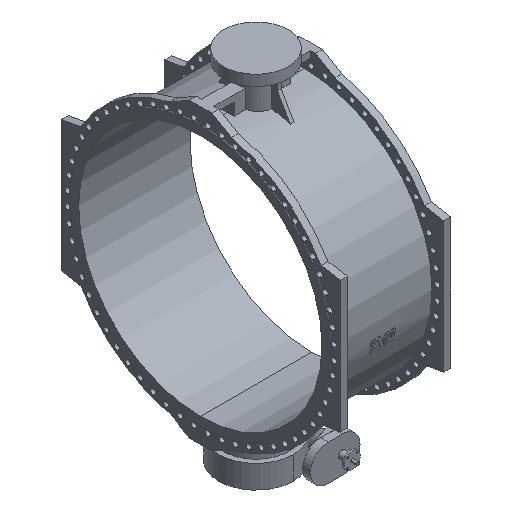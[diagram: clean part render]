
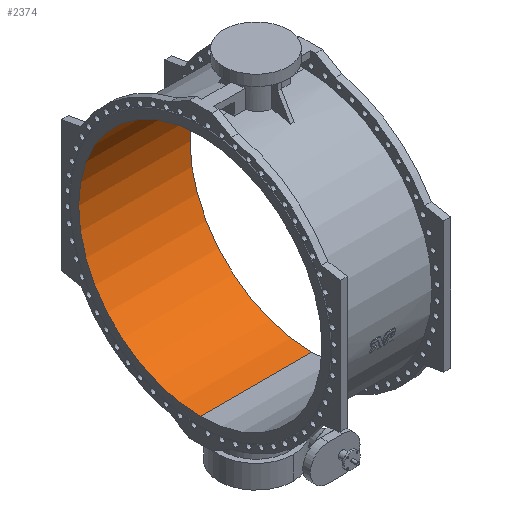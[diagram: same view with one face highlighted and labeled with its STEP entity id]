
A CAD part, isometric view. The second image highlights one B-rep face of the part: STEP entity #2374.
In plain terms, the highlighted cylindrical face has radius 1300 mm (diameter 2600 mm), a partial arc.
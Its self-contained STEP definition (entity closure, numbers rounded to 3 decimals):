
#725 = VERTEX_POINT ( 'NONE', #3560 ) ;
#747 = DIRECTION ( 'NONE',  ( 0., 0., -1. ) ) ;
#776 = AXIS2_PLACEMENT_3D ( 'NONE', #17924, #14817, #747 ) ;
#1259 = ORIENTED_EDGE ( 'NONE', *, *, #9246, .F. ) ;
#1321 = DIRECTION ( 'NONE',  ( 1., 0., 0. ) ) ;
#1470 = CIRCLE ( 'NONE', #776, 1300. ) ;
#1897 = EDGE_CURVE ( 'Defeatured_0_143+Defeatured_0_75+Defeatured_0_75+Defeatured_0_75', #12732, #4132, #1470, .T. ) ;
#2374 = ADVANCED_FACE ( 'Defeatured_0_143', ( #9691 ), #9369, .F. ) ;
#3560 = CARTESIAN_POINT ( 'NONE',  ( 595., 0., 1300. ) ) ;
#3817 = DIRECTION ( 'NONE',  ( 1., 0., 0. ) ) ;
#4132 = VERTEX_POINT ( 'NONE', #13626 ) ;
#4303 = DIRECTION ( 'NONE',  ( 1., 0., 0. ) ) ;
#4768 = CARTESIAN_POINT ( 'NONE',  ( -4356.808, 0., 0. ) ) ;
#5332 = CARTESIAN_POINT ( 'NONE',  ( 595., 0., 0. ) ) ;
#5952 = AXIS2_PLACEMENT_3D ( 'NONE', #4768, #1321, #17411 ) ;
#5962 = EDGE_CURVE ( 'NONE', #4132, #12372, #13946, .T. ) ;
#6005 = VECTOR ( 'NONE', #4303, 1000. ) ;
#8189 = CARTESIAN_POINT ( 'NONE',  ( 595., 0., -1300. ) ) ;
#9246 = EDGE_CURVE ( 'NONE', #12732, #725, #9251, .T. ) ;
#9251 = LINE ( 'NONE', #15991, #12963 ) ;
#9369 = CYLINDRICAL_SURFACE ( 'NONE', #5952, 1300. ) ;
#9691 = FACE_OUTER_BOUND ( 'NONE', #9832, .T. ) ;
#9832 = EDGE_LOOP ( 'NONE', ( #1259, #19170, #16144, #18654 ) ) ;
#11164 = EDGE_CURVE ( 'Defeatured_0_143+Defeatured_0_96+Defeatured_0_96+Defeatured_0_96', #12372, #725, #21200, .T. ) ;
#12372 = VERTEX_POINT ( 'NONE', #8189 ) ;
#12732 = VERTEX_POINT ( 'NONE', #17582 ) ;
#12963 = VECTOR ( 'NONE', #14383, 1000. ) ;
#13626 = CARTESIAN_POINT ( 'NONE',  ( -595., 0., -1300. ) ) ;
#13946 = LINE ( 'NONE', #18986, #6005 ) ;
#14383 = DIRECTION ( 'NONE',  ( 1., 0., 0. ) ) ;
#14817 = DIRECTION ( 'NONE',  ( -1., 0., 0. ) ) ;
#15991 = CARTESIAN_POINT ( 'NONE',  ( -4356.808, 0., 1300. ) ) ;
#16144 = ORIENTED_EDGE ( 'NONE', *, *, #5962, .T. ) ;
#17411 = DIRECTION ( 'NONE',  ( 0., 0., -1. ) ) ;
#17582 = CARTESIAN_POINT ( 'NONE',  ( -595., 0., 1300. ) ) ;
#17924 = CARTESIAN_POINT ( 'NONE',  ( -595., 0., 0. ) ) ;
#18654 = ORIENTED_EDGE ( 'NONE', *, *, #11164, .T. ) ;
#18986 = CARTESIAN_POINT ( 'NONE',  ( -4356.808, 0., -1300. ) ) ;
#19170 = ORIENTED_EDGE ( 'NONE', *, *, #1897, .T. ) ;
#19810 = AXIS2_PLACEMENT_3D ( 'NONE', #5332, #3817, #20322 ) ;
#20322 = DIRECTION ( 'NONE',  ( 0., 0., -1. ) ) ;
#21200 = CIRCLE ( 'NONE', #19810, 1300. ) ;
